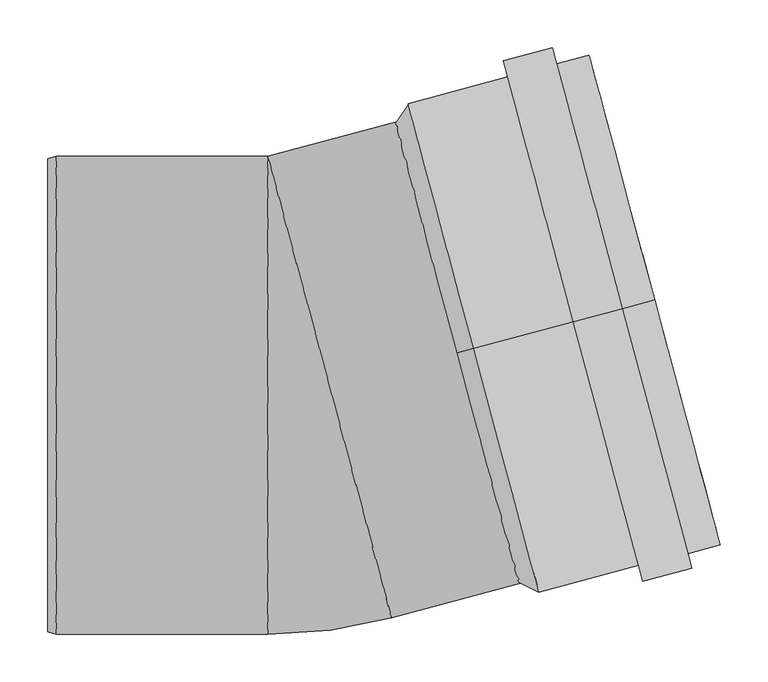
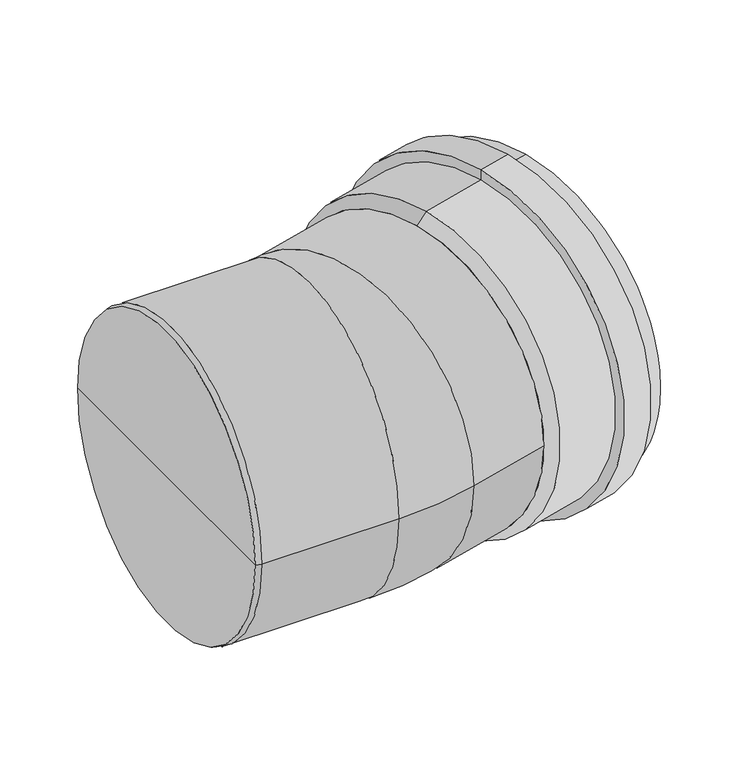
"""IFC4 building model written with IfcOpenShell, lengths in millimetres: pipe fitting geometry, OSMA_KG2000_PPKGB : Koleno 15°."""

from ifc_helpers import new_model, si_unit, point, frame, origin, place, context, project, spatial, polyline, circle_curve, ellipse_curve, trimmed, source, transform, mapped, element, save
from ifc_brep_helpers import plane_surface, cylinder_surface, revolved_surface, advanced_brep


def pipe_fitting_67ac9b7c(model_context):
    return source(origin(), model_context, "Body", "AdvancedBrep", [
        advanced_brep(
        [(182.5599812, 48.9167995, 250.0), (182.5599812, 48.9167995, -250.0), (371.8814431, 99.6453324, -250.0), (371.8814431, 99.6453324, 250.0), (286.8799704, 76.8692564, 265.3), (286.8799704, 76.8692564, -265.3), (182.5599812, 48.9167995, -265.3), (182.5599812, 48.9167995, 265.3), (286.8799704, 76.8692564, 282.5), (286.8799704, 76.8692564, -282.5), (338.0740392, 90.5866658, 282.5), (338.0740392, 90.5866658, -282.5), (338.0740392, 90.5866658, 265.3), (338.0740392, 90.5866658, -265.3), (371.8814431, 99.6453324, 265.3), (371.8814431, 99.6453324, -265.3), (165.1733163, 44.2580567, 234.7), (165.1733163, 44.2580567, -234.7), (165.1733163, 44.2580567, 250.0), (165.1733163, 44.2580567, -250.0)],
        [
            (0, 1, circle_curve(frame((182.5599812, 48.9167995, 0.0), z_axis=(-0.9659258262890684, -0.2588190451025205, 0.0), x_axis=(0.0, 0.0, -1.0000000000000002)), 250.0)),
            (1, 2),
            (2, 3, circle_curve(frame((371.8814431, 99.6453324, 0.0), z_axis=(0.9659258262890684, 0.2588190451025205, 0.0), x_axis=(0.0, 0.0, -1.0000000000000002)), 250.0)),
            (3, 0),
            (1, 0, circle_curve(frame((182.5599812, 48.9167995, 0.0), z_axis=(-0.9659258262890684, -0.2588190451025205, 0.0), x_axis=(0.0, 0.0, -1.0000000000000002)), 250.0)),
            (3, 2, circle_curve(frame((371.8814431, 99.6453324, 0.0), z_axis=(0.9659258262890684, 0.2588190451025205, 0.0), x_axis=(0.0, 0.0, -1.0000000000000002)), 250.0)),
            (4, 5, circle_curve(frame((286.8799704, 76.8692564, 0.0), z_axis=(-0.9659258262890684, -0.2588190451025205, 0.0), x_axis=(0.0, 0.0, -1.0000000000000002)), 265.3)),
            (5, 6),
            (6, 7, circle_curve(frame((182.5599812, 48.9167995, 0.0), z_axis=(0.9659258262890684, 0.2588190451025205, 0.0), x_axis=(0.0, 0.0, -1.0000000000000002)), 265.3)),
            (7, 4),
            (5, 4, circle_curve(frame((286.8799704, 76.8692564, 0.0), z_axis=(-0.9659258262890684, -0.2588190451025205, 0.0), x_axis=(0.0, 0.0, -1.0000000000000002)), 265.3)),
            (7, 6, circle_curve(frame((182.5599812, 48.9167995, 0.0), z_axis=(0.9659258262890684, 0.2588190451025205, 0.0), x_axis=(0.0, 0.0, -1.0000000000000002)), 265.3)),
            (8, 9, circle_curve(frame((286.8799704, 76.8692564, 0.0), z_axis=(-0.9659258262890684, -0.2588190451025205, 0.0), x_axis=(0.0, 0.0, -1.0000000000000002)), 282.5)),
            (9, 5),
            (4, 8),
            (9, 8, circle_curve(frame((286.8799704, 76.8692564, 0.0), z_axis=(-0.9659258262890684, -0.2588190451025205, 0.0), x_axis=(0.0, 0.0, -1.0000000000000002)), 282.5)),
            (10, 11, circle_curve(frame((338.0740392, 90.5866658, 0.0), z_axis=(-0.9659258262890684, -0.2588190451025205, 0.0), x_axis=(0.0, 0.0, -1.0000000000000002)), 282.5)),
            (11, 9),
            (8, 10),
            (11, 10, circle_curve(frame((338.0740392, 90.5866658, 0.0), z_axis=(-0.9659258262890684, -0.2588190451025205, 0.0), x_axis=(0.0, 0.0, -1.0000000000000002)), 282.5)),
            (12, 13, circle_curve(frame((338.0740392, 90.5866658, 0.0), z_axis=(-0.9659258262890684, -0.2588190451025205, 0.0), x_axis=(0.0, 0.0, -1.0000000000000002)), 265.3)),
            (13, 11),
            (10, 12),
            (13, 12, circle_curve(frame((338.0740392, 90.5866658, 0.0), z_axis=(-0.9659258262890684, -0.2588190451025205, 0.0), x_axis=(0.0, 0.0, -1.0000000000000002)), 265.3)),
            (14, 15, circle_curve(frame((371.8814431, 99.6453324, 0.0), z_axis=(-0.9659258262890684, -0.2588190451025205, 0.0), x_axis=(0.0, 0.0, -1.0000000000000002)), 265.3)),
            (15, 13),
            (12, 14),
            (15, 14, circle_curve(frame((371.8814431, 99.6453324, 0.0), z_axis=(-0.9659258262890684, -0.2588190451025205, 0.0), x_axis=(0.0, 0.0, -1.0000000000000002)), 265.3)),
            (2, 15),
            (14, 3),
            (16, 17, circle_curve(frame((165.1733163, 44.2580567, 0.0), z_axis=(-0.9659258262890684, -0.2588190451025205, 0.0), x_axis=(0.0, 0.0, -1.0000000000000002)), 234.7)),
            (17, 1),
            (0, 16),
            (17, 16, circle_curve(frame((165.1733163, 44.2580567, 0.0), z_axis=(-0.9659258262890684, -0.2588190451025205, 0.0), x_axis=(0.0, 0.0, -1.0000000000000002)), 234.7)),
            (18, 19, circle_curve(frame((165.1733163, 44.2580567, 0.0), z_axis=(-0.9659258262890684, -0.2588190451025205, 0.0), x_axis=(0.0, 0.0, -1.0000000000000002)), 250.0)),
            (19, 17),
            (16, 18),
            (19, 18, circle_curve(frame((165.1733163, 44.2580567, 0.0), z_axis=(-0.9659258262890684, -0.2588190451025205, 0.0), x_axis=(0.0, 0.0, -1.0000000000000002)), 250.0)),
            (6, 19),
            (18, 7),
        ],
        [
            revolved_surface(polyline([(371.8814431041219, 99.64533238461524, -250.00000000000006), (182.5599811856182, 48.91679955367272, -250.00000000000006)]), (2950.3955347, 790.5561009, 0.0), (0.9659258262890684, 0.2588190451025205, 0.0)),
            cylinder_surface(frame((2950.3955347, 790.5561009, 0.0), z_axis=(0.9659258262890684, 0.2588190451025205, 0.0), x_axis=(0.0, 0.0, -1.0000000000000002)), 265.3),
            plane_surface(frame((286.8799704, 76.8692564, 0.0), z_axis=(-0.9659258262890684, -0.2588190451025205, 0.0), x_axis=(0.0, 0.0, -1.0))),
            cylinder_surface(frame((2950.3955347, 790.5561009, 0.0), z_axis=(0.9659258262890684, 0.2588190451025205, 0.0), x_axis=(0.0, 0.0, -1.0000000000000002)), 282.5),
            plane_surface(frame((338.0740392, 90.5866658, 0.0), z_axis=(0.9659258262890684, 0.2588190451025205, 0.0), x_axis=(0.0, 0.0, -1.0))),
            plane_surface(frame((371.8814431, 99.6453324, 0.0), z_axis=(0.9659258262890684, 0.2588190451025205, 0.0), x_axis=(0.0, 0.0, -1.0))),
            revolved_surface(polyline([(182.5599812, 48.9167995, -250.0), (165.1733163, 44.2580567, -234.7)]), (2950.3955347, 790.5561009, 0.0), (0.9659258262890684, 0.2588190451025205, 0.0)),
            plane_surface(frame((165.1733163, 44.2580567, 0.0), z_axis=(-0.9659258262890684, -0.2588190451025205, 0.0), x_axis=(0.0, 0.0, -1.0))),
            revolved_surface(polyline([(165.1733163, 44.2580567, -250.0), (182.5599812, 48.9167995, -265.3)]), (2950.3955347, 790.5561009, 0.0), (0.9659258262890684, 0.2588190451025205, 0.0)),
        ],
        [
            (0, [[1, 2, 3, 4]]),
            (0, [[5, -4, 6, -2]]),
            (1, [[7, 8, 9, 10]]),
            (1, [[11, -10, 12, -8]]),
            (2, [[13, 14, -7, 15]]),
            (2, [[16, -15, -11, -14]]),
            (3, [[17, 18, -13, 19]]),
            (3, [[20, -19, -16, -18]]),
            (4, [[21, 22, -17, 23]]),
            (4, [[24, -23, -20, -22]]),
            (1, [[25, 26, -21, 27]]),
            (1, [[28, -27, -24, -26]]),
            (5, [[-3, 29, -25, 30]]),
            (5, [[-6, -30, -28, -29]]),
            (6, [[31, 32, -1, 33]]),
            (6, [[34, -33, -5, -32]]),
            (7, [[35, 36, -31, 37]]),
            (7, [[38, -37, -34, -36]]),
            (8, [[-9, 39, -35, 40]]),
            (8, [[-12, -40, -38, -39]]),
        ],
    ),
        advanced_brep(
        [(-263.0, 0.0, 0.0), (-263.0, 247.5884572, 0.0), (-263.0, -247.5884572, 0.0), (-254.0, 250.0, 0.0), (-254.0, -250.0, 0.0), (-32.7223746, 250.0511113, 0.0), (-33.1106031, 250.0, 0.0), (-33.1106031, -250.0, 0.0), (96.687148, -232.9118019, 0.0), (31.9823867, 8.5696547, 250.0), (31.9823867, 8.5696547, -250.0), (241.4691875, -194.1175713, 0.0), (112.0596649, 288.8453418, 0.0)],
        [
            (0, 1),
            (1, 2, circle_curve(frame((-263.0, 0.0, 0.0), z_axis=(-1.0, 0.0, 0.0), x_axis=(0.0, 1.0, 0.0)), 247.5884572)),
            (2, 0),
            (2, 1, circle_curve(frame((-263.0, 0.0, 0.0), z_axis=(-1.0, 0.0, 0.0), x_axis=(0.0, 1.0, 0.0)), 247.5884572)),
            (1, 3),
            (3, 4, circle_curve(frame((-254.0, 0.0, 0.0), z_axis=(-1.0, 0.0, 0.0), x_axis=(0.0, 1.0, 0.0)), 250.0)),
            (4, 2),
            (4, 3, circle_curve(frame((-254.0, 0.0, 0.0), z_axis=(-1.0, 0.0, 0.0), x_axis=(0.0, 1.0, 0.0)), 250.0)),
            (5, 6, circle_curve(frame((-33.1106031, 251.5, 0.0), z_axis=(0.0, 0.0, -1.0), x_axis=(0.0, -1.0, 0.0)), 1.5)),
            (6, 7, circle_curve(frame((-33.1106031, 0.0, 0.0), z_axis=(1.0, 0.0, 0.0), x_axis=(0.0, 1.0, 0.0)), 250.0)),
            (7, 8, circle_curve(frame((-33.1106031, 251.5, 0.0), z_axis=(0.0, 0.0, 1.0), x_axis=(0.0, -1.0, 0.0)), 501.5)),
            (8, 9, circle_curve(frame((31.9823867, 8.5696547, 0.0), z_axis=(-0.9659258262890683, -0.2588190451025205, 0.0), x_axis=(-0.2588190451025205, 0.9659258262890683, 0.0)), 250.0)),
            (9, 5, circle_curve(frame((31.9823867, 8.5696547, 0.0), z_axis=(-0.9659258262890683, -0.2588190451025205, 0.0), x_axis=(-0.2588190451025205, 0.9659258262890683, 0.0)), 250.0)),
            (5, 10, circle_curve(frame((31.9823867, 8.5696547, 0.0), z_axis=(-0.9659258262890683, -0.2588190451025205, 0.0), x_axis=(-0.2588190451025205, 0.9659258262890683, 0.0)), 250.0)),
            (10, 8, circle_curve(frame((31.9823867, 8.5696547, 0.0), z_axis=(-0.9659258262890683, -0.2588190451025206, 0.0), x_axis=(-0.2588190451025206, 0.9659258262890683, 0.0)), 250.0)),
            (7, 6, circle_curve(frame((-33.1106031, 0.0, 0.0), z_axis=(1.0, 0.0, 0.0), x_axis=(0.0, 1.0, 0.0)), 250.0)),
            (3, 6),
            (7, 4),
            (11, 12, circle_curve(frame((176.7644262, 47.3638853, 0.0), z_axis=(0.9659258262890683, 0.2588190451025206, 0.0), x_axis=(-0.2588190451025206, 0.9659258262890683, 0.0)), 250.0)),
            (12, 11, circle_curve(frame((176.7644262, 47.3638853, 0.0), z_axis=(0.9659258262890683, 0.2588190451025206, 0.0), x_axis=(-0.2588190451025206, 0.9659258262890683, 0.0)), 250.0)),
            (12, 5),
            (8, 11),
        ],
        [
            plane_surface(frame((-263.0, 0.0, 0.0), z_axis=(-1.0, 0.0, 0.0), x_axis=(0.0, 1.0, 0.0))),
            revolved_surface(polyline([(-254.0, 250.0, 0.0), (-263.0, 247.5884572, 0.0)]), (331.0587718, 0.0, 0.0), (-1.0, 0.0, 0.0)),
            revolved_surface(trimmed(ellipse_curve(frame((-33.1106031, 0.0, 0.0), z_axis=(-1.0, 0.0, 0.0), x_axis=(0.0, 1.0, 0.0)), 250.0, 250.0), [point((-33.1106031, -250.0, 0.0))], [point((-33.1106031, 250.0, 0.0))], True, "CARTESIAN"), (-33.1106031, 251.5, 0.0), (0.0, 0.0, 1.0)),
            revolved_surface(trimmed(ellipse_curve(frame((-33.1106031, 0.0, 0.0), z_axis=(-1.0, 0.0, 0.0), x_axis=(0.0, 1.0, 0.0)), 250.0, 250.0), [point((-33.1106031, 250.0, 0.0))], [point((-33.1106031, -250.0, 0.0))], True, "CARTESIAN"), (-33.1106031, 251.5, 0.0), (0.0, 0.0, 1.0)),
            cylinder_surface(frame((331.0587718, 0.0, 0.0), z_axis=(-1.0, 0.0, 0.0), x_axis=(0.0, 1.0, 0.0)), 250.0),
            plane_surface(frame((176.7644262, 47.3638853, 0.0), z_axis=(0.9659258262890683, 0.2588190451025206, 0.0), x_axis=(0.0, 0.0, 1.0))),
            cylinder_surface(frame((31.9823867, 8.5696547, 0.0), z_axis=(-0.9659258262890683, -0.2588190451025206, 0.0), x_axis=(-0.2588190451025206, 0.9659258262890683, 0.0)), 250.0),
        ],
        [
            (0, [[1, 2, 3]]),
            (0, [[-1, -3, 4]]),
            (1, [[-2, 5, 6, 7]]),
            (1, [[-4, -7, 8, -5]]),
            (2, [[9, 10, 11, 12, 13]]),
            (3, [[-9, 14, 15, -11, 16]]),
            (4, [[-6, 17, -16, 18]]),
            (4, [[-8, -18, -10, -17]]),
            (5, [[19, 20]]),
            (6, [[-20, 21, -13, -12, 22]]),
            (6, [[-19, -22, -15, -14, -21]]),
        ],
    ),
    ])


if __name__ == "__main__":
    model = new_model("IFC4")
    model_context = context("Model", 3, world=origin())
    ifc_project = project(units=[si_unit("LENGTHUNIT", "METRE", prefix="MILLI")], contexts=[model_context])
    site = spatial("IfcSite", under=ifc_project)
    building = spatial("IfcBuilding", under=site)
    placement = place(None, origin())
    pipe_fitting_shape = pipe_fitting_67ac9b7c(model_context)
    element("IfcPipeFitting", 1, ObjectType="OSMA_KG2000_PPKGB : Koleno 15°", at=placement, inside=building, context=model_context, shape_type="MappedRepresentation", body=[
        mapped(pipe_fitting_shape, transform((0.0, 0.0, 0.0), x_axis=(1.0, 0.0, 0.0), y_axis=(0.0, 1.0, 0.0), z_axis=(0.0, 0.0, 1.0))),
    ])
    save(model, "model.ifc")
